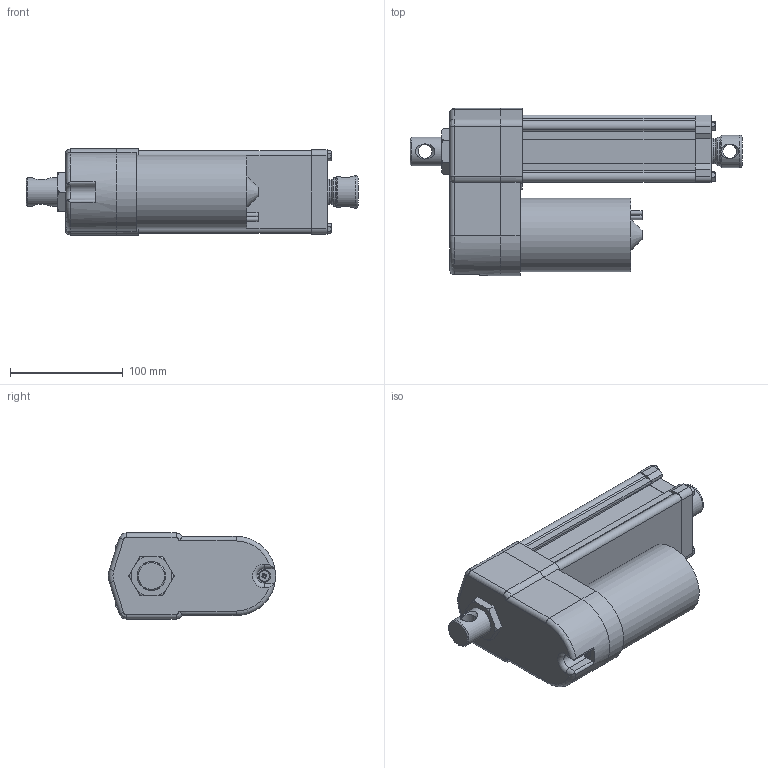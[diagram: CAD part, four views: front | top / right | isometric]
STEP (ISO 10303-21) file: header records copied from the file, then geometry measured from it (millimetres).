
FILE_DESCRIPTION( ( 'STEP AP203' ), '1' );
FILE_NAME( 'p:/temp/worker_284/temp/exporttempdir_2912_770_cySRv/format_0/DA12-21B65M05M0N-AMM.stp', '2020-04-12T13:21:07', ( 'License CC BY-ND 4.0' ), ( 'CADENAS' ), ' ', 'PARTsolutions', ' ' );
FILE_SCHEMA( ( 'CONFIG_CONTROL_DESIGN' ) );
Length unit declared in the file: millimetre
Products named in the file (8): DA12-21B65M05M0N-AMM; _ELECTRAK-LA14-DA12-21B65MM0N-05M-EU-REAR; _Electrak-10-EU-RA-D602700; _D602768eu; _ELECTRAK-LA14-DA12--MOTOR; _DA12-21B65M05M0NAMMtube; _ELECTRAK-LA14-DA12--05-PLATE; _ELECTRAK-LA14-DA12--0521B65MNM-ROD
Assembly tree (7 placements, depth 2):
  DA12-21B65M05M0N-AMM
    _ELECTRAK-LA14-DA12-21B65MM0N-05M-EU-REAR
    _Electrak-10-EU-RA-D602700
    _D602768eu
    _ELECTRAK-LA14-DA12--MOTOR
    _DA12-21B65M05M0NAMMtube
    _ELECTRAK-LA14-DA12--05-PLATE
    _ELECTRAK-LA14-DA12--0521B65MNM-ROD
Bounding box: 293.95 x 148 x 76.2 mm (x, y, z)
Volume: 1275218 mm3; surface area: 228918.5 mm2
Topology: 7 solids, 8 shells, 378 faces, 942 edges, 610 vertices
Faces by surface type: plane 183, cylinder 131, cone 46, torus 14, bspline 4
Full cylindrical faces by diameter (mm): 4 x2, 4.126 x1, 4.8 x6, 5 x5, 5.6 x4, 7.878 x4, 9.398 x1, 12.2 x2, 16 x1, 21.8 x1, 25.2 x1, 25.4 x1, 26.24 x1, 28.5 x1, 28.6 x2, 47.625 x1, 65.3 x1
Entity records: 11834 total; most frequent: CARTESIAN_POINT 2729, DIRECTION 1869, ORIENTED_EDGE 1744, EDGE_CURVE 872, AXIS2_PLACEMENT_3D 702, VERTEX_POINT 602, EDGE_LOOP 485, LINE 465
